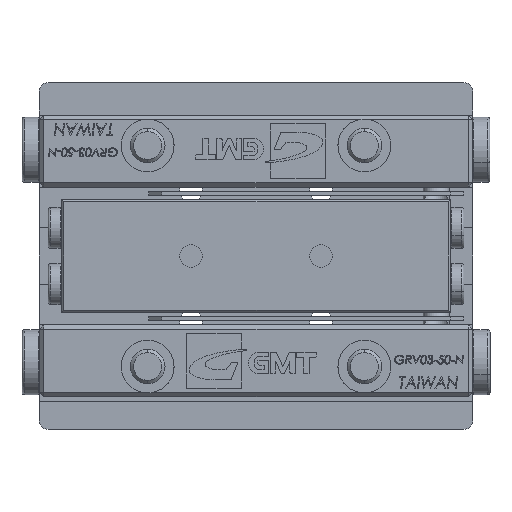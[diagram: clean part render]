
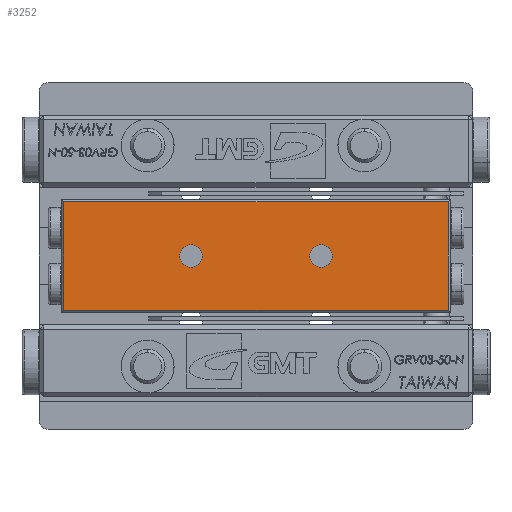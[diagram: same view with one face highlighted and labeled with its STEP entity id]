
A CAD part, front view. The second image highlights one B-rep face of the part: STEP entity #3252.
In plain terms, the highlighted planar face has unit normal (0, -1, 0).
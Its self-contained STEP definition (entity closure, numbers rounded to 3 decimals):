
#2577 = CIRCLE ( 'NONE', #5428, 1.3 ) ;
#2579 = CIRCLE ( 'NONE', #5430, 1.3 ) ;
#3252 = ADVANCED_FACE ( 'NONE', ( #11451, #11485, #11475 ), #42333, .F. ) ;
#4514 = AXIS2_PLACEMENT_3D ( 'NONE', #42331, #42328, #42335 ) ;
#5428 = AXIS2_PLACEMENT_3D ( 'NONE', #40103, #40104, #40105 ) ;
#5430 = AXIS2_PLACEMENT_3D ( 'NONE', #40112, #40113, #40114 ) ;
#5432 = AXIS2_PLACEMENT_3D ( 'NONE', #40185, #40186, #40187 ) ;
#5434 = AXIS2_PLACEMENT_3D ( 'NONE', #40193, #40194, #40195 ) ;
#9788 = EDGE_CURVE ( 'NONE', #11574, #11404, #2577, .T. ) ;
#9791 = EDGE_CURVE ( 'NONE', #11562, #11394, #2579, .T. ) ;
#9828 = EDGE_CURVE ( 'NONE', #11394, #11562, #11855, .T. ) ;
#9830 = EDGE_CURVE ( 'NONE', #11404, #11574, #11858, .T. ) ;
#9832 = EDGE_CURVE ( 'NONE', #22022, #22053, #11860, .T. ) ;
#9833 = EDGE_CURVE ( 'NONE', #22053, #22123, #11853, .T. ) ;
#9834 = EDGE_CURVE ( 'NONE', #22123, #22119, #11863, .T. ) ;
#9835 = EDGE_CURVE ( 'NONE', #22119, #22022, #11865, .T. ) ;
#11394 = VERTEX_POINT ( 'NONE', #37624 ) ;
#11404 = VERTEX_POINT ( 'NONE', #37629 ) ;
#11451 = FACE_OUTER_BOUND ( 'NONE', #31938, .T. ) ;
#11475 = FACE_BOUND ( 'NONE', #31945, .T. ) ;
#11485 = FACE_BOUND ( 'NONE', #31924, .T. ) ;
#11562 = VERTEX_POINT ( 'NONE', #37708 ) ;
#11574 = VERTEX_POINT ( 'NONE', #37714 ) ;
#11853 = LINE ( 'NONE', #40197, #11864 ) ;
#11855 = CIRCLE ( 'NONE', #5432, 1.3 ) ;
#11858 = CIRCLE ( 'NONE', #5434, 1.3 ) ;
#11860 = LINE ( 'NONE', #40191, #11862 ) ;
#11862 = VECTOR ( 'NONE', #40192, 1000. ) ;
#11863 = LINE ( 'NONE', #40203, #11866 ) ;
#11864 = VECTOR ( 'NONE', #40202, 1000. ) ;
#11865 = LINE ( 'NONE', #40205, #11868 ) ;
#11866 = VECTOR ( 'NONE', #40204, 1000. ) ;
#11868 = VECTOR ( 'NONE', #40206, 1000. ) ;
#22022 = VERTEX_POINT ( 'NONE', #38124 ) ;
#22053 = VERTEX_POINT ( 'NONE', #38139 ) ;
#22119 = VERTEX_POINT ( 'NONE', #38170 ) ;
#22123 = VERTEX_POINT ( 'NONE', #38173 ) ;
#31924 = EDGE_LOOP ( 'NONE', ( #41221, #41227 ) ) ;
#31938 = EDGE_LOOP ( 'NONE', ( #41229, #41231, #41228, #41225 ) ) ;
#31945 = EDGE_LOOP ( 'NONE', ( #41222, #41107 ) ) ;
#37624 = CARTESIAN_POINT ( 'NONE',  ( -5.853, -6.287, 1.3 ) ) ;
#37629 = CARTESIAN_POINT ( 'NONE',  ( 9.147, -6.287, 1.3 ) ) ;
#37708 = CARTESIAN_POINT ( 'NONE',  ( -5.853, -6.287, -1.3 ) ) ;
#37714 = CARTESIAN_POINT ( 'NONE',  ( 9.147, -6.287, -1.3 ) ) ;
#38124 = CARTESIAN_POINT ( 'NONE',  ( 23.847, -6.287, -6.25 ) ) ;
#38139 = CARTESIAN_POINT ( 'NONE',  ( 23.847, -6.287, 6.25 ) ) ;
#38170 = CARTESIAN_POINT ( 'NONE',  ( -20.553, -6.287, -6.25 ) ) ;
#38173 = CARTESIAN_POINT ( 'NONE',  ( -20.553, -6.287, 6.25 ) ) ;
#40103 = CARTESIAN_POINT ( 'NONE',  ( 9.147, -6.287, 0. ) ) ;
#40104 = DIRECTION ( 'NONE',  ( 0., 1., 0. ) ) ;
#40105 = DIRECTION ( 'NONE',  ( 0., 0., 1. ) ) ;
#40112 = CARTESIAN_POINT ( 'NONE',  ( -5.853, -6.287, 0. ) ) ;
#40113 = DIRECTION ( 'NONE',  ( 0., 1., 0. ) ) ;
#40114 = DIRECTION ( 'NONE',  ( 0., 0., 1. ) ) ;
#40185 = CARTESIAN_POINT ( 'NONE',  ( -5.853, -6.287, 0. ) ) ;
#40186 = DIRECTION ( 'NONE',  ( 0., 1., 0. ) ) ;
#40187 = DIRECTION ( 'NONE',  ( 0., 0., 1. ) ) ;
#40191 = CARTESIAN_POINT ( 'NONE',  ( 23.847, -6.287, 6.55 ) ) ;
#40192 = DIRECTION ( 'NONE',  ( 0., 0., 1. ) ) ;
#40193 = CARTESIAN_POINT ( 'NONE',  ( 9.147, -6.287, 0. ) ) ;
#40194 = DIRECTION ( 'NONE',  ( 0., 1., 0. ) ) ;
#40195 = DIRECTION ( 'NONE',  ( 0., 0., 1. ) ) ;
#40197 = CARTESIAN_POINT ( 'NONE',  ( -20.853, -6.287, 6.25 ) ) ;
#40202 = DIRECTION ( 'NONE',  ( -1., 0., 0. ) ) ;
#40203 = CARTESIAN_POINT ( 'NONE',  ( -20.553, -6.287, 6.55 ) ) ;
#40204 = DIRECTION ( 'NONE',  ( 0., 0., -1. ) ) ;
#40205 = CARTESIAN_POINT ( 'NONE',  ( -20.853, -6.287, -6.25 ) ) ;
#40206 = DIRECTION ( 'NONE',  ( 1., 0., 0. ) ) ;
#41107 = ORIENTED_EDGE ( 'NONE', *, *, #9791, .T. ) ;
#41221 = ORIENTED_EDGE ( 'NONE', *, *, #9830, .T. ) ;
#41222 = ORIENTED_EDGE ( 'NONE', *, *, #9828, .T. ) ;
#41225 = ORIENTED_EDGE ( 'NONE', *, *, #9835, .T. ) ;
#41227 = ORIENTED_EDGE ( 'NONE', *, *, #9788, .T. ) ;
#41228 = ORIENTED_EDGE ( 'NONE', *, *, #9834, .T. ) ;
#41229 = ORIENTED_EDGE ( 'NONE', *, *, #9832, .T. ) ;
#41231 = ORIENTED_EDGE ( 'NONE', *, *, #9833, .T. ) ;
#42328 = DIRECTION ( 'NONE',  ( 0., 1., 0. ) ) ;
#42331 = CARTESIAN_POINT ( 'NONE',  ( -20.853, -6.287, 6.55 ) ) ;
#42333 = PLANE ( 'NONE',  #4514 ) ;
#42335 = DIRECTION ( 'NONE',  ( 0., 0., 1. ) ) ;
